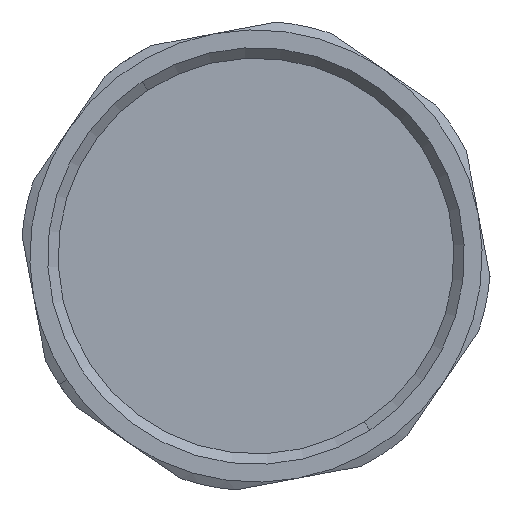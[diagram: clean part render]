
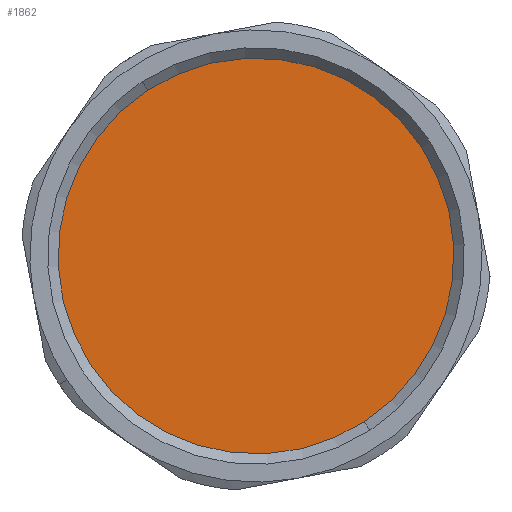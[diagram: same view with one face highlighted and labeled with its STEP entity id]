
A CAD part, front view. The second image highlights one B-rep face of the part: STEP entity #1862.
In plain terms, the highlighted planar face has unit normal (0, -1, 0).
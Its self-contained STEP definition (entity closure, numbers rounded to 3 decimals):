
#220 = EDGE_LOOP ( 'NONE', ( #1830, #736 ) ) ;
#385 = DIRECTION ( 'NONE',  ( 0., 0., -1. ) ) ;
#387 = DIRECTION ( 'NONE',  ( 0., -1., 0. ) ) ;
#395 = CARTESIAN_POINT ( 'NONE',  ( 0., -16.5, 0. ) ) ;
#736 = ORIENTED_EDGE ( 'NONE', *, *, #2734, .T. ) ;
#883 = CIRCLE ( 'NONE', #1193, 22.75 ) ;
#952 = CIRCLE ( 'NONE', #1216, 22.75 ) ;
#1193 = AXIS2_PLACEMENT_3D ( 'NONE', #395, #387, #385 ) ;
#1216 = AXIS2_PLACEMENT_3D ( 'NONE', #1378, #1379, #1380 ) ;
#1325 = FACE_OUTER_BOUND ( 'NONE', #220, .T. ) ;
#1378 = CARTESIAN_POINT ( 'NONE',  ( 0., -16.5, 0. ) ) ;
#1379 = DIRECTION ( 'NONE',  ( 0., -1., 0. ) ) ;
#1380 = DIRECTION ( 'NONE',  ( 0., 0., -1. ) ) ;
#1675 = VERTEX_POINT ( 'NONE', #3601 ) ;
#1830 = ORIENTED_EDGE ( 'NONE', *, *, #2422, .T. ) ;
#1839 = VERTEX_POINT ( 'NONE', #3252 ) ;
#1862 = ADVANCED_FACE ( 'NONE', ( #1325 ), #3467, .T. ) ;
#2164 = AXIS2_PLACEMENT_3D ( 'NONE', #3455, #3454, #3453 ) ;
#2422 = EDGE_CURVE ( 'NONE', #1675, #1839, #883, .T. ) ;
#2734 = EDGE_CURVE ( 'NONE', #1839, #1675, #952, .T. ) ;
#3252 = CARTESIAN_POINT ( 'NONE',  ( -12.443, -16.5, 19.046 ) ) ;
#3453 = DIRECTION ( 'NONE',  ( -0.547, 0., 0.837 ) ) ;
#3454 = DIRECTION ( 'NONE',  ( 0., -1., 0. ) ) ;
#3455 = CARTESIAN_POINT ( 'NONE',  ( 15.997, -16.5, 10.451 ) ) ;
#3467 = PLANE ( 'NONE',  #2164 ) ;
#3601 = CARTESIAN_POINT ( 'NONE',  ( 12.443, -16.5, -19.046 ) ) ;
